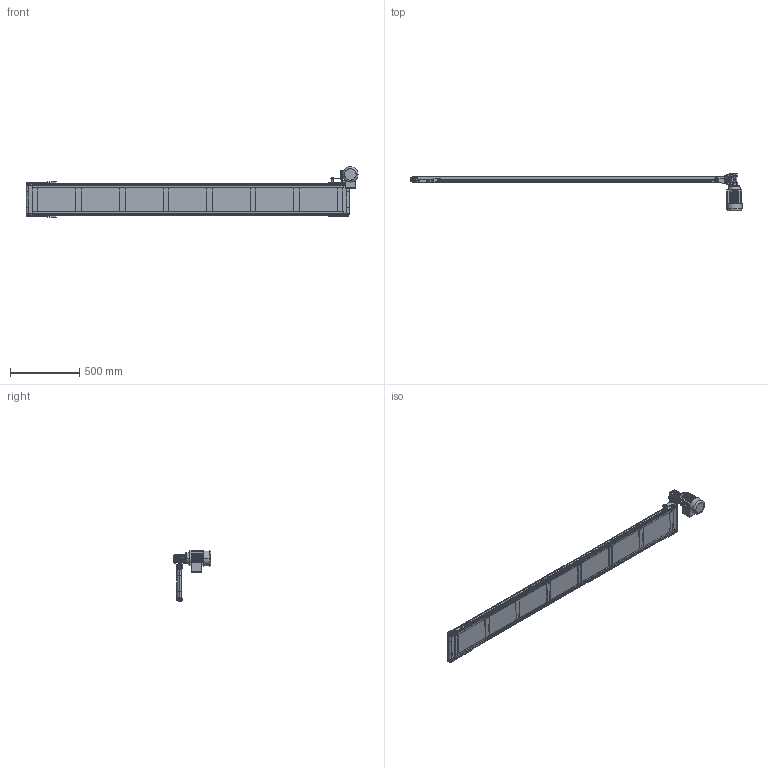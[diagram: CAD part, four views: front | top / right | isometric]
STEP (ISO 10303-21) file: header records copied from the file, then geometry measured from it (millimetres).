
FILE_DESCRIPTION (( 'STEP AP203' ), '1' );
FILE_NAME ('NASTRO_RETTILINEO_TAPPETO.step', '2026-04-20T14:10:30', ( 'Utente Windows' ), ( '' ), 'SwSTEP 2.0', 'SolidWorks 2024', '' );
FILE_SCHEMA (( 'CONFIG_CONTROL_DESIGN' ));
Length unit declared in the file: millimetre
Products named in the file (31): 084.301.000 VITI ALUSIC_084.301.011; RONDELLE UNI 6592_6.4x12.5 UNI 6592; 084.802.062; 084.802.027; 62012RSBOMB_62012RSBOMB; 084.801.025; RULLO_30_RINVIO; BLOCCO_TRAINO_30_STANDARD_30_DX_MOTORE A SINISTRA; LAMIERA_STANDARD; VITI TE UNI 5739_M6x10 UNI 5739; BLOCCO_RINVIO_30_STANDARD_DX; VITI TE UNI 5739_M8x16 UNI 5739; 084.302.000 DADI ALUSIC 13x13-1_084.302.004; 084.801.027 sx; VITE_RONDELLA_M8X20; 084.301.000 VITI ALUSIC_084.301.003; RONDELLE FASCIA LARGA UNI 6593_8.4x24 UNI 6593; BLOCCO_RINVIO_30_STANDARD_SX; BLOCCO_TRAINO_30_STANDARD_SX_MOTORE A SINISTRA; CH03P_DX; TELAIO_30_STANDARD_Default<A macchina>; 084.303.001; GRANI A PUNTA PIATTA UNI 5923_M8x20 UNI 5923; CUSCINETTI CB_CB 202; RULLO_30_TRAINO_30_DX; 084.807.005; 084.801.027 dx; NASTRO_RETTILINEO_TAPPETO; 084.802.008; 084.301.000 VITI ALUSIC_084.301.002; TAPPETO_STANDARD
Assembly tree (72 placements, depth 3):
  NASTRO_RETTILINEO_TAPPETO
    TAPPETO_STANDARD
    TELAIO_30_STANDARD_Default<A macchina>
    LAMIERA_STANDARD
    RULLO_30_TRAINO_30_DX
    BLOCCO_TRAINO_30_STANDARD_30_DX_MOTORE A SINISTRA
      084.802.027
      084.807.005
      084.801.027 dx
      084.801.025
      CUSCINETTI CB_CB 202
      084.301.000 VITI ALUSIC_084.301.002  x2
      084.302.000 DADI ALUSIC 13x13-1_084.302.004  x2
      084.301.000 VITI ALUSIC_084.301.011  x2
      VITI TE UNI 5739_M8x16 UNI 5739
      RONDELLE FASCIA LARGA UNI 6593_8.4x24 UNI 6593
      GRANI A PUNTA PIATTA UNI 5923_M8x20 UNI 5923
      RONDELLE UNI 6592_6.4x12.5 UNI 6592  x4
      VITI TE UNI 5739_M6x10 UNI 5739  x4
      084.802.062
    BLOCCO_TRAINO_30_STANDARD_SX_MOTORE A SINISTRA
      084.801.027 sx
      62012RSBOMB_62012RSBOMB
      084.302.000 DADI ALUSIC 13x13-1_084.302.004  x2
      084.301.000 VITI ALUSIC_084.301.002  x2
    RULLO_30_RINVIO
    BLOCCO_RINVIO_30_STANDARD_SX
      084.802.008
      084.801.027 sx
      62012RSBOMB_62012RSBOMB
      084.302.000 DADI ALUSIC 13x13-1_084.302.004  x3
      084.301.000 VITI ALUSIC_084.301.002  x2
      084.301.000 VITI ALUSIC_084.301.003
    BLOCCO_RINVIO_30_STANDARD_DX
      084.802.008
      084.801.027 dx
      62012RSBOMB_62012RSBOMB
      084.302.000 DADI ALUSIC 13x13-1_084.302.004  x3
      084.301.000 VITI ALUSIC_084.301.002  x2
      084.301.000 VITI ALUSIC_084.301.003
    VITE_RONDELLA_M8X20  x13
      084.303.001
      084.301.000 VITI ALUSIC_084.301.003
    CH03P_DX
Bounding box: 2397 x 273 x 364 mm (x, y, z)
Volume: 7485829.2 mm3; surface area: 4973672.4 mm2
Topology: 92 solids, 94 shells, 2537 faces, 6373 edges, 4121 vertices
Faces by surface type: plane 1340, cylinder 835, cone 174, torus 118, bspline 50, sphere 20
Entity records: 52922 total; most frequent: CARTESIAN_POINT 9408, DIRECTION 8481, ORIENTED_EDGE 7936, EDGE_CURVE 3968, AXIS2_PLACEMENT_3D 3052, VERTEX_POINT 2569, LINE 2377, VECTOR 2377
